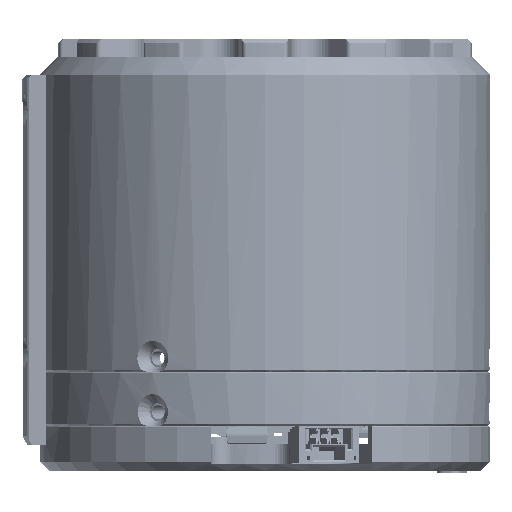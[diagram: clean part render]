
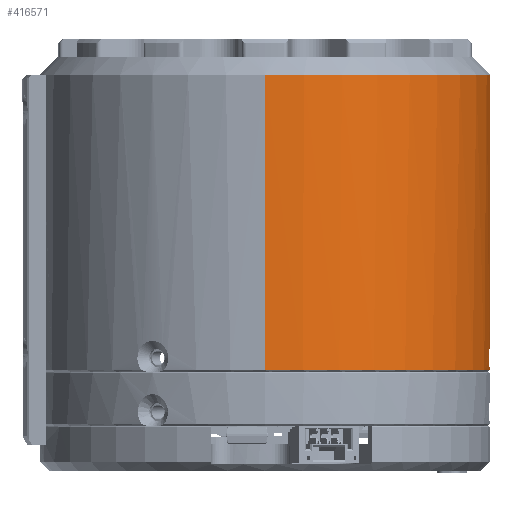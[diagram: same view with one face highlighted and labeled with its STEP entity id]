
A CAD part, front view. The second image highlights one B-rep face of the part: STEP entity #416571.
In plain terms, the highlighted cylindrical face has radius 25 mm (diameter 50 mm), a partial arc.
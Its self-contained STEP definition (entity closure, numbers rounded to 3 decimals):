
#3582 = CARTESIAN_POINT ( 'NONE',  ( -24.958, -36.8, -1.448 ) ) ;
#13780 = LINE ( 'NONE', #284101, #377045 ) ;
#18165 = CARTESIAN_POINT ( 'NONE',  ( 0., -36.8, 0. ) ) ;
#20659 = DIRECTION ( 'NONE',  ( 0., 1., 0. ) ) ;
#22014 = EDGE_CURVE ( 'NONE', #188288, #68895, #381663, .T. ) ;
#22032 = CARTESIAN_POINT ( 'NONE',  ( -24.962, -34.13, 1.39 ) ) ;
#24182 = B_SPLINE_CURVE_WITH_KNOTS ( 'NONE', 3,
 ( #3582, #382666, #301875, #76917, #423047, #157664, #34076, #344757, #463426, #41493, #339813, #193097, #309327, #415634, #261509, #387607, #425503, #230995 ),
 .UNSPECIFIED., .F., .F.,
 ( 4, 2, 2, 2, 2, 2, 2, 2, 4 ),
 ( 0.031, 0.09, 0.148, 0.207, 0.266, 0.324, 0.383, 0.441, 0.5 ),
 .UNSPECIFIED. ) ;
#29451 = VERTEX_POINT ( 'NONE', #185415 ) ;
#32026 = VERTEX_POINT ( 'NONE', #370985 ) ;
#34076 = CARTESIAN_POINT ( 'NONE',  ( -24.921, -35.454, -1.988 ) ) ;
#41493 = CARTESIAN_POINT ( 'NONE',  ( -24.94, -34.571, -1.739 ) ) ;
#42793 = EDGE_CURVE ( 'NONE', #32026, #29451, #24182, .T. ) ;
#50637 = CARTESIAN_POINT ( 'NONE',  ( 0., -4., 25. ) ) ;
#59038 = EDGE_CURVE ( 'NONE', #29451, #347067, #119460, .T. ) ;
#59988 = CARTESIAN_POINT ( 'NONE',  ( -24.95, -36.664, 1.579 ) ) ;
#62566 = EDGE_CURVE ( 'NONE', #117382, #32026, #448816, .T. ) ;
#66822 = CIRCLE ( 'NONE', #107188, 25. ) ;
#68895 = VERTEX_POINT ( 'NONE', #50637 ) ;
#69868 = CARTESIAN_POINT ( 'NONE',  ( -24.97, -34.005, 1.244 ) ) ;
#76917 = CARTESIAN_POINT ( 'NONE',  ( -24.931, -36.181, -1.859 ) ) ;
#87826 = EDGE_LOOP ( 'NONE', ( #468465, #260847, #196029, #241125, #116753, #409066, #468017 ) ) ;
#101419 = DIRECTION ( 'NONE',  ( 0., 1., 0. ) ) ;
#103016 = DIRECTION ( 'NONE',  ( 0., 0., 1. ) ) ;
#105292 = CARTESIAN_POINT ( 'NONE',  ( -24.958, -36.8, 1.448 ) ) ;
#107188 = AXIS2_PLACEMENT_3D ( 'NONE', #465351, #159595, #422496 ) ;
#107759 = CARTESIAN_POINT ( 'NONE',  ( -25., -33.593, 0. ) ) ;
#110224 = CARTESIAN_POINT ( 'NONE',  ( -25., -33.593, 0.192 ) ) ;
#115098 = AXIS2_PLACEMENT_3D ( 'NONE', #332988, #148335, #103016 ) ;
#116753 = ORIENTED_EDGE ( 'NONE', *, *, #172398, .T. ) ;
#117382 = VERTEX_POINT ( 'NONE', #253813 ) ;
#119460 = B_SPLINE_CURVE_WITH_KNOTS ( 'NONE', 3,
 ( #107759, #110224, #143150, #221486, #415998, #69868, #22032, #494269, #406100, #178639, #259395, #486846, #181129, #335240, #484359, #302246, #59988, #105292 ),
 .UNSPECIFIED., .F., .F.,
 ( 4, 2, 2, 2, 2, 2, 2, 2, 4 ),
 ( 0.5, 0.559, 0.617, 0.676, 0.734, 0.793, 0.852, 0.91, 0.969 ),
 .UNSPECIFIED. ) ;
#143150 = CARTESIAN_POINT ( 'NONE',  ( -24.998, -33.619, 0.383 ) ) ;
#148335 = DIRECTION ( 'NONE',  ( 0., 1., 0. ) ) ;
#155750 = EDGE_CURVE ( 'NONE', #310507, #68895, #13780, .T. ) ;
#157664 = CARTESIAN_POINT ( 'NONE',  ( -24.921, -35.641, -1.983 ) ) ;
#159595 = DIRECTION ( 'NONE',  ( 0., 1., 0. ) ) ;
#172398 = EDGE_CURVE ( 'NONE', #347067, #310507, #66822, .T. ) ;
#178639 = CARTESIAN_POINT ( 'NONE',  ( -24.929, -34.907, 1.891 ) ) ;
#181129 = CARTESIAN_POINT ( 'NONE',  ( -24.921, -35.641, 1.983 ) ) ;
#185415 = CARTESIAN_POINT ( 'NONE',  ( -25., -33.593, 0. ) ) ;
#188288 = VERTEX_POINT ( 'NONE', #406031 ) ;
#193097 = CARTESIAN_POINT ( 'NONE',  ( -24.962, -34.13, -1.39 ) ) ;
#196029 = ORIENTED_EDGE ( 'NONE', *, *, #42793, .T. ) ;
#221486 = CARTESIAN_POINT ( 'NONE',  ( -24.989, -33.725, 0.749 ) ) ;
#225122 = LINE ( 'NONE', #343822, #362001 ) ;
#230995 = CARTESIAN_POINT ( 'NONE',  ( -25., -33.593, 0. ) ) ;
#241125 = ORIENTED_EDGE ( 'NONE', *, *, #59038, .T. ) ;
#253813 = CARTESIAN_POINT ( 'NONE',  ( 0., -36.8, -25. ) ) ;
#255533 = DIRECTION ( 'NONE',  ( 0., 0., 1. ) ) ;
#259395 = CARTESIAN_POINT ( 'NONE',  ( -24.924, -35.089, 1.942 ) ) ;
#260847 = ORIENTED_EDGE ( 'NONE', *, *, #62566, .T. ) ;
#261509 = CARTESIAN_POINT ( 'NONE',  ( -24.989, -33.725, -0.749 ) ) ;
#264702 = EDGE_CURVE ( 'NONE', #117382, #188288, #225122, .T. ) ;
#279251 = AXIS2_PLACEMENT_3D ( 'NONE', #18165, #20659, #369256 ) ;
#284101 = CARTESIAN_POINT ( 'NONE',  ( 0., 4.467, 25. ) ) ;
#293433 = CARTESIAN_POINT ( 'NONE',  ( 0., 4.467, 0. ) ) ;
#301875 = CARTESIAN_POINT ( 'NONE',  ( -24.943, -36.513, -1.688 ) ) ;
#302246 = CARTESIAN_POINT ( 'NONE',  ( -24.943, -36.512, 1.688 ) ) ;
#309327 = CARTESIAN_POINT ( 'NONE',  ( -24.97, -34.005, -1.244 ) ) ;
#310507 = VERTEX_POINT ( 'NONE', #476976 ) ;
#327048 = DIRECTION ( 'NONE',  ( 0., 1., 0. ) ) ;
#332988 = CARTESIAN_POINT ( 'NONE',  ( 0., -4., 0. ) ) ;
#335240 = CARTESIAN_POINT ( 'NONE',  ( -24.926, -36.004, 1.918 ) ) ;
#339813 = CARTESIAN_POINT ( 'NONE',  ( -24.947, -34.411, -1.636 ) ) ;
#341288 = FACE_OUTER_BOUND ( 'NONE', #87826, .T. ) ;
#343822 = CARTESIAN_POINT ( 'NONE',  ( 0., 4.467, -25. ) ) ;
#344757 = CARTESIAN_POINT ( 'NONE',  ( -24.924, -35.089, -1.942 ) ) ;
#347067 = VERTEX_POINT ( 'NONE', #477917 ) ;
#362001 = VECTOR ( 'NONE', #462508, 1000. ) ;
#369256 = DIRECTION ( 'NONE',  ( 0., 0., 1. ) ) ;
#370985 = CARTESIAN_POINT ( 'NONE',  ( -24.958, -36.8, -1.448 ) ) ;
#377045 = VECTOR ( 'NONE', #327048, 1000. ) ;
#381663 = CIRCLE ( 'NONE', #115098, 25. ) ;
#382666 = CARTESIAN_POINT ( 'NONE',  ( -24.95, -36.664, -1.579 ) ) ;
#387607 = CARTESIAN_POINT ( 'NONE',  ( -24.998, -33.62, -0.383 ) ) ;
#406031 = CARTESIAN_POINT ( 'NONE',  ( 0., -4., -25. ) ) ;
#406100 = CARTESIAN_POINT ( 'NONE',  ( -24.94, -34.571, 1.739 ) ) ;
#409066 = ORIENTED_EDGE ( 'NONE', *, *, #155750, .T. ) ;
#414621 = CYLINDRICAL_SURFACE ( 'NONE', #426908, 25. ) ;
#415634 = CARTESIAN_POINT ( 'NONE',  ( -24.983, -33.804, -0.925 ) ) ;
#415998 = CARTESIAN_POINT ( 'NONE',  ( -24.983, -33.804, 0.925 ) ) ;
#416571 = ADVANCED_FACE ( 'NONE', ( #341288 ), #414621, .T. ) ;
#422496 = DIRECTION ( 'NONE',  ( 0., 0., 1. ) ) ;
#423047 = CARTESIAN_POINT ( 'NONE',  ( -24.926, -36.005, -1.918 ) ) ;
#425503 = CARTESIAN_POINT ( 'NONE',  ( -25., -33.593, -0.192 ) ) ;
#426908 = AXIS2_PLACEMENT_3D ( 'NONE', #293433, #101419, #255533 ) ;
#448816 = CIRCLE ( 'NONE', #279251, 25. ) ;
#462508 = DIRECTION ( 'NONE',  ( 0., 1., 0. ) ) ;
#463426 = CARTESIAN_POINT ( 'NONE',  ( -24.929, -34.908, -1.891 ) ) ;
#465351 = CARTESIAN_POINT ( 'NONE',  ( 0., -36.8, 0. ) ) ;
#468017 = ORIENTED_EDGE ( 'NONE', *, *, #22014, .F. ) ;
#468465 = ORIENTED_EDGE ( 'NONE', *, *, #264702, .F. ) ;
#476976 = CARTESIAN_POINT ( 'NONE',  ( 0., -36.8, 25. ) ) ;
#477917 = CARTESIAN_POINT ( 'NONE',  ( -24.958, -36.8, 1.448 ) ) ;
#484359 = CARTESIAN_POINT ( 'NONE',  ( -24.931, -36.181, 1.858 ) ) ;
#486846 = CARTESIAN_POINT ( 'NONE',  ( -24.921, -35.454, 1.988 ) ) ;
#494269 = CARTESIAN_POINT ( 'NONE',  ( -24.947, -34.411, 1.636 ) ) ;
